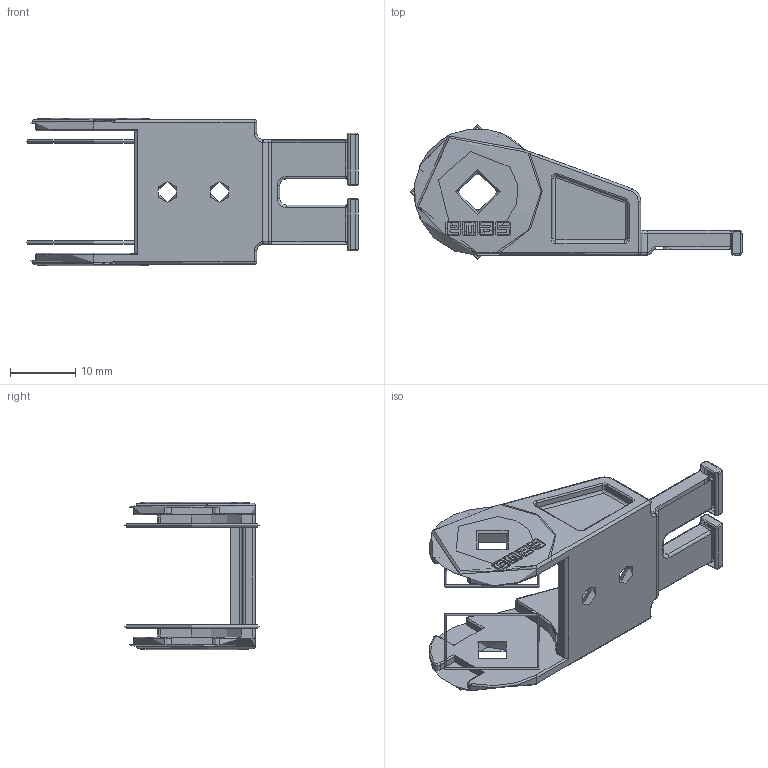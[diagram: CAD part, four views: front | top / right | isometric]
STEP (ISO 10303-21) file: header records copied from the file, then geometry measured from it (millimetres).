
FILE_DESCRIPTION((''),'2; 1');
FILE_NAME('','2026-03-26T10:12:29',(''),(''),'CST STEP Exporter V1.0','Unknown','');
FILE_SCHEMA(('CONFIG_CONTROL_DESIGN'));
Length unit declared in the file: metre
Bounding box: 50.85 x 20.7 x 22.6 mm (x, y, z)
Topology: 0 solids, 15 shells, 497 faces, 1347 edges, 864 vertices
Faces by surface type: plane 201, cylinder 180, torus 85, extrusion 23, cone 4, sphere 2, bspline 2
Full cylindrical faces by diameter (mm): 0.4 x2, 0.5 x2, 0.6 x2, 0.8 x2, 3.2 x2, 6.1 x2
Entity records: 21090 total; most frequent: CARTESIAN_POINT 4796, ORIENTED_EDGE 2588, DIRECTION 2498, EDGE_CURVE 1334, AXIS2_PLACEMENT_3D 878, VERTEX_POINT 845, VECTOR 742, LINE 719
